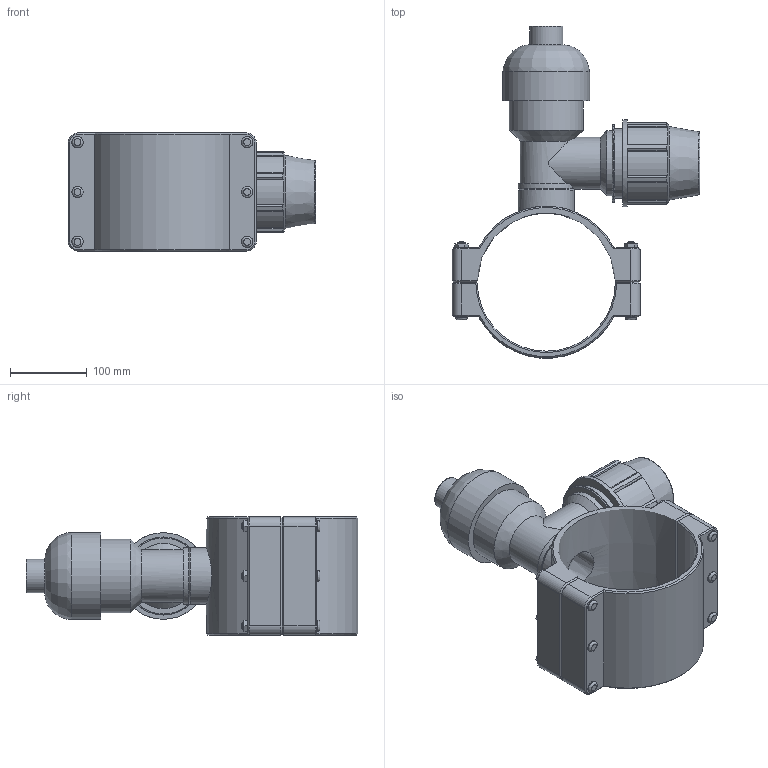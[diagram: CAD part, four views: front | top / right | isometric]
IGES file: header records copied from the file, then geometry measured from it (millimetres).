
Global section: file name: 186800180063.ipt; native system: Autodesk Inventor 2015; preprocessor: unknown; author: KIM; date: 20170618.094042; units: millimetre
Bounding box: 322.5 x 432.65 x 154 mm (x, y, z)
Volume: 3229125.5 mm3; surface area: 434738.4 mm2
Topology: 1 solids, 1 shells, 255 faces, 639 edges, 413 vertices
Faces by surface type: plane 154, cylinder 50, cone 31, revolution 20
Full cylindrical faces by diameter (mm): 10 x6, 15 x12, 43.598 x1, 67.8 x1, 73.653 x1, 84.75 x1, 90.4 x1, 96.315 x1, 101.7 x1, 113 x1, 113.312 x1
